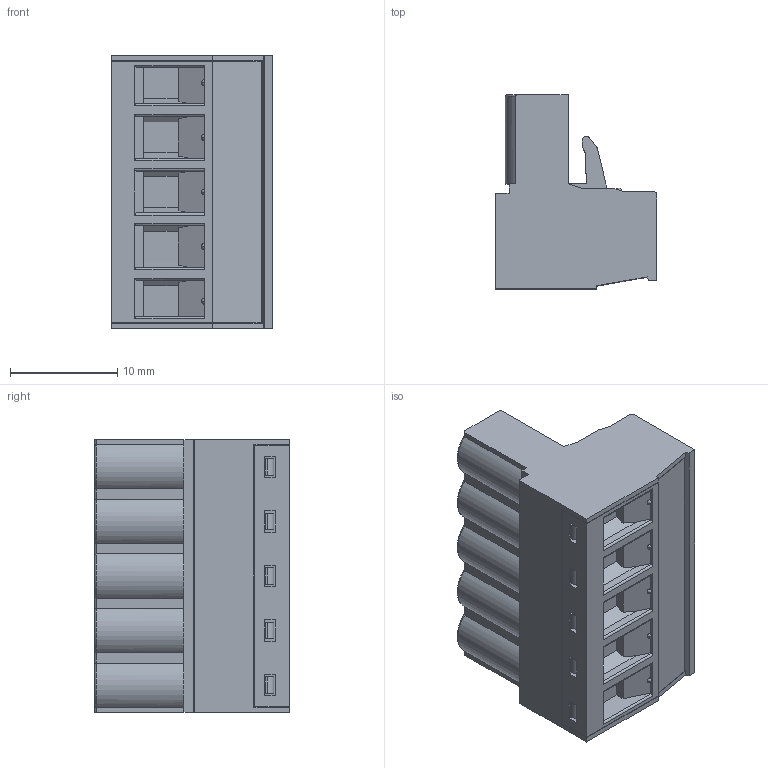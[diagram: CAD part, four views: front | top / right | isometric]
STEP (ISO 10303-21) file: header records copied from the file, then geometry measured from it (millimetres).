
FILE_DESCRIPTION (( 'STEP AP203' ), '1' );
FILE_NAME ('BR8F1-05.STEP', '2020-03-04T01:04:43', ( '' ), ( '' ), 'SwSTEP 2.0', 'SolidWorks 2019', '' );
FILE_SCHEMA (( 'CONFIG_CONTROL_DESIGN' ));
Length unit declared in the file: millimetre
Products named in the file (1): BR8F1-05
Bounding box: 15.05 x 18.1 x 25.4 mm (x, y, z)
Volume: 4062.8 mm3; surface area: 3611.9 mm2
Topology: 1 solids, 1 shells, 685 faces, 1831 edges, 1178 vertices
Faces by surface type: plane 433, cylinder 162, cone 40, torus 30, sphere 20
Entity records: 21690 total; most frequent: CARTESIAN_POINT 4339, ORIENTED_EDGE 3662, DIRECTION 3503, EDGE_CURVE 1831, VECTOR 1347, LINE 1347, VERTEX_POINT 1178, AXIS2_PLACEMENT_3D 1078
